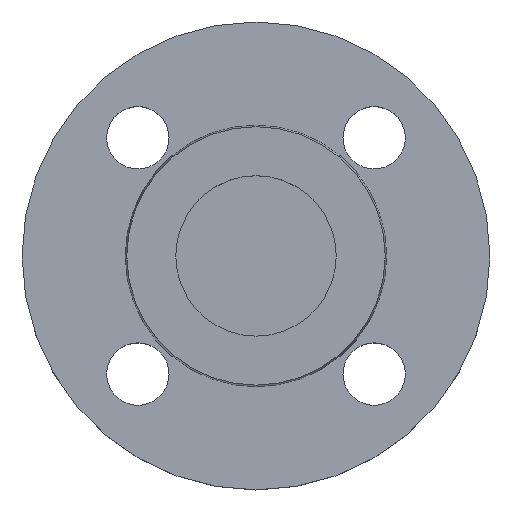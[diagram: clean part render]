
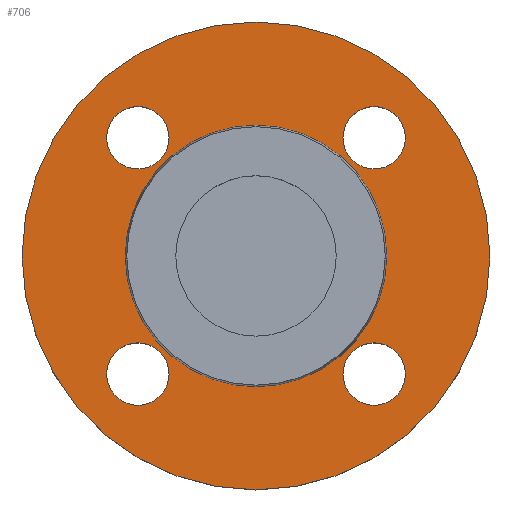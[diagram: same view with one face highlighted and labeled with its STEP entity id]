
A CAD part, top view. The second image highlights one B-rep face of the part: STEP entity #706.
In plain terms, the highlighted planar face has unit normal (0, 0, 1).
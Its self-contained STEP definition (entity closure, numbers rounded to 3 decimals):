
#14 = VERTEX_POINT ( 'NONE', #700 ) ;
#34 = EDGE_LOOP ( 'NONE', ( #111, #112 ) ) ;
#54 = CIRCLE ( 'NONE', #59, 7. ) ;
#59 = AXIS2_PLACEMENT_3D ( 'NONE', #539, #526, #557 ) ;
#63 = VERTEX_POINT ( 'NONE', #527 ) ;
#69 = VERTEX_POINT ( 'NONE', #602 ) ;
#74 = CIRCLE ( 'NONE', #80, 29.353 ) ;
#80 = AXIS2_PLACEMENT_3D ( 'NONE', #568, #569, #515 ) ;
#90 = CIRCLE ( 'NONE', #138, 52.5 ) ;
#99 = EDGE_CURVE ( 'NONE', #14, #420, #518, .T. ) ;
#103 = ORIENTED_EDGE ( 'NONE', *, *, #99, .T. ) ;
#105 = ORIENTED_EDGE ( 'NONE', *, *, #530, .T. ) ;
#106 = ORIENTED_EDGE ( 'NONE', *, *, #541, .T. ) ;
#107 = ORIENTED_EDGE ( 'NONE', *, *, #431, .T. ) ;
#108 = ORIENTED_EDGE ( 'NONE', *, *, #281, .T. ) ;
#109 = ORIENTED_EDGE ( 'NONE', *, *, #329, .T. ) ;
#111 = ORIENTED_EDGE ( 'NONE', *, *, #413, .T. ) ;
#112 = ORIENTED_EDGE ( 'NONE', *, *, #485, .T. ) ;
#113 = ORIENTED_EDGE ( 'NONE', *, *, #576, .T. ) ;
#114 = ORIENTED_EDGE ( 'NONE', *, *, #441, .T. ) ;
#115 = ORIENTED_EDGE ( 'NONE', *, *, #578, .F. ) ;
#116 = ORIENTED_EDGE ( 'NONE', *, *, #592, .F. ) ;
#138 = AXIS2_PLACEMENT_3D ( 'NONE', #291, #556, #516 ) ;
#157 = AXIS2_PLACEMENT_3D ( 'NONE', #510, #509, #506 ) ;
#163 = CIRCLE ( 'NONE', #157, 52.5 ) ;
#166 = VERTEX_POINT ( 'NONE', #609 ) ;
#176 = VERTEX_POINT ( 'NONE', #624 ) ;
#179 = AXIS2_PLACEMENT_3D ( 'NONE', #254, #256, #259 ) ;
#181 = CIRCLE ( 'NONE', #383, 7. ) ;
#182 = CIRCLE ( 'NONE', #492, 7. ) ;
#204 = CARTESIAN_POINT ( 'NONE',  ( -52.5, 0., -2. ) ) ;
#207 = CARTESIAN_POINT ( 'NONE',  ( -19.517, -26.517, -2. ) ) ;
#216 = AXIS2_PLACEMENT_3D ( 'NONE', #709, #710, #711 ) ;
#220 = CARTESIAN_POINT ( 'NONE',  ( 26.517, 26.517, -2. ) ) ;
#221 = DIRECTION ( 'NONE',  ( 0., 0., -1. ) ) ;
#222 = DIRECTION ( 'NONE',  ( 1., 0., 0. ) ) ;
#225 = CARTESIAN_POINT ( 'NONE',  ( 52.5, 0., -2. ) ) ;
#226 = CARTESIAN_POINT ( 'NONE',  ( 19.517, -26.517, -2. ) ) ;
#238 = CARTESIAN_POINT ( 'NONE',  ( -26.517, -26.517, -2. ) ) ;
#240 = DIRECTION ( 'NONE',  ( 0., 0., -1. ) ) ;
#243 = DIRECTION ( 'NONE',  ( 1., 0., 0. ) ) ;
#254 = CARTESIAN_POINT ( 'NONE',  ( 0., 0., -2. ) ) ;
#256 = DIRECTION ( 'NONE',  ( 0., 0., -1. ) ) ;
#259 = DIRECTION ( 'NONE',  ( -1., 0., 0. ) ) ;
#270 = AXIS2_PLACEMENT_3D ( 'NONE', #680, #682, #684 ) ;
#281 = EDGE_CURVE ( 'NONE', #699, #69, #637, .T. ) ;
#291 = CARTESIAN_POINT ( 'NONE',  ( 0., 0., -2. ) ) ;
#297 = AXIS2_PLACEMENT_3D ( 'NONE', #543, #546, #545 ) ;
#324 = CIRCLE ( 'NONE', #179, 29.353 ) ;
#325 = AXIS2_PLACEMENT_3D ( 'NONE', #583, #588, #589 ) ;
#329 = EDGE_CURVE ( 'NONE', #69, #699, #712, .T. ) ;
#332 = CIRCLE ( 'NONE', #625, 7. ) ;
#377 = CARTESIAN_POINT ( 'NONE',  ( 26.517, 26.517, -2. ) ) ;
#378 = DIRECTION ( 'NONE',  ( 0., 0., -1. ) ) ;
#381 = EDGE_LOOP ( 'NONE', ( #106, #107 ) ) ;
#383 = AXIS2_PLACEMENT_3D ( 'NONE', #220, #221, #222 ) ;
#384 = AXIS2_PLACEMENT_3D ( 'NONE', #468, #467, #464 ) ;
#386 = DIRECTION ( 'NONE',  ( 1., 0., 0. ) ) ;
#397 = EDGE_LOOP ( 'NONE', ( #103, #105 ) ) ;
#403 = VERTEX_POINT ( 'NONE', #204 ) ;
#404 = VERTEX_POINT ( 'NONE', #207 ) ;
#413 = EDGE_CURVE ( 'NONE', #582, #166, #181, .T. ) ;
#417 = EDGE_LOOP ( 'NONE', ( #108, #109 ) ) ;
#419 = VERTEX_POINT ( 'NONE', #225 ) ;
#420 = VERTEX_POINT ( 'NONE', #226 ) ;
#431 = EDGE_CURVE ( 'NONE', #63, #404, #182, .T. ) ;
#441 = EDGE_CURVE ( 'NONE', #176, #565, #324, .T. ) ;
#464 = DIRECTION ( 'NONE',  ( 1., 0., 0. ) ) ;
#467 = DIRECTION ( 'NONE',  ( 0., 0., 1. ) ) ;
#468 = CARTESIAN_POINT ( 'NONE',  ( 29.353, 0., -2. ) ) ;
#469 = PLANE ( 'NONE',  #384 ) ;
#472 = FACE_OUTER_BOUND ( 'NONE', #694, .T. ) ;
#473 = FACE_BOUND ( 'NONE', #683, .T. ) ;
#475 = FACE_BOUND ( 'NONE', #34, .T. ) ;
#476 = FACE_BOUND ( 'NONE', #417, .T. ) ;
#477 = FACE_BOUND ( 'NONE', #381, .T. ) ;
#478 = FACE_BOUND ( 'NONE', #397, .T. ) ;
#480 = CARTESIAN_POINT ( 'NONE',  ( -19.517, 26.517, -2. ) ) ;
#485 = EDGE_CURVE ( 'NONE', #166, #582, #332, .T. ) ;
#492 = AXIS2_PLACEMENT_3D ( 'NONE', #238, #240, #243 ) ;
#506 = DIRECTION ( 'NONE',  ( -1., 0., 0. ) ) ;
#509 = DIRECTION ( 'NONE',  ( 0., 0., -1. ) ) ;
#510 = CARTESIAN_POINT ( 'NONE',  ( 0., 0., -2. ) ) ;
#515 = DIRECTION ( 'NONE',  ( -1., 0., 0. ) ) ;
#516 = DIRECTION ( 'NONE',  ( -1., 0., 0. ) ) ;
#518 = CIRCLE ( 'NONE', #325, 7. ) ;
#526 = DIRECTION ( 'NONE',  ( 0., 0., -1. ) ) ;
#527 = CARTESIAN_POINT ( 'NONE',  ( -33.517, -26.517, -2. ) ) ;
#528 = CARTESIAN_POINT ( 'NONE',  ( -29.353, 0., -2. ) ) ;
#530 = EDGE_CURVE ( 'NONE', #420, #14, #660, .T. ) ;
#539 = CARTESIAN_POINT ( 'NONE',  ( -26.517, -26.517, -2. ) ) ;
#541 = EDGE_CURVE ( 'NONE', #404, #63, #54, .T. ) ;
#543 = CARTESIAN_POINT ( 'NONE',  ( 26.517, -26.517, -2. ) ) ;
#545 = DIRECTION ( 'NONE',  ( 1., 0., 0. ) ) ;
#546 = DIRECTION ( 'NONE',  ( 0., 0., -1. ) ) ;
#556 = DIRECTION ( 'NONE',  ( 0., 0., -1. ) ) ;
#557 = DIRECTION ( 'NONE',  ( 1., 0., 0. ) ) ;
#565 = VERTEX_POINT ( 'NONE', #528 ) ;
#567 = CARTESIAN_POINT ( 'NONE',  ( 33.517, 26.517, -2. ) ) ;
#568 = CARTESIAN_POINT ( 'NONE',  ( 0., 0., -2. ) ) ;
#569 = DIRECTION ( 'NONE',  ( 0., 0., -1. ) ) ;
#576 = EDGE_CURVE ( 'NONE', #565, #176, #74, .T. ) ;
#578 = EDGE_CURVE ( 'NONE', #419, #403, #90, .T. ) ;
#582 = VERTEX_POINT ( 'NONE', #567 ) ;
#583 = CARTESIAN_POINT ( 'NONE',  ( 26.517, -26.517, -2. ) ) ;
#588 = DIRECTION ( 'NONE',  ( 0., 0., -1. ) ) ;
#589 = DIRECTION ( 'NONE',  ( 1., 0., 0. ) ) ;
#592 = EDGE_CURVE ( 'NONE', #403, #419, #163, .T. ) ;
#602 = CARTESIAN_POINT ( 'NONE',  ( -33.517, 26.517, -2. ) ) ;
#609 = CARTESIAN_POINT ( 'NONE',  ( 19.517, 26.517, -2. ) ) ;
#624 = CARTESIAN_POINT ( 'NONE',  ( 29.353, 0., -2. ) ) ;
#625 = AXIS2_PLACEMENT_3D ( 'NONE', #377, #378, #386 ) ;
#637 = CIRCLE ( 'NONE', #270, 7. ) ;
#660 = CIRCLE ( 'NONE', #297, 7. ) ;
#680 = CARTESIAN_POINT ( 'NONE',  ( -26.517, 26.517, -2. ) ) ;
#682 = DIRECTION ( 'NONE',  ( 0., 0., -1. ) ) ;
#683 = EDGE_LOOP ( 'NONE', ( #113, #114 ) ) ;
#684 = DIRECTION ( 'NONE',  ( 1., 0., 0. ) ) ;
#694 = EDGE_LOOP ( 'NONE', ( #115, #116 ) ) ;
#699 = VERTEX_POINT ( 'NONE', #480 ) ;
#700 = CARTESIAN_POINT ( 'NONE',  ( 33.517, -26.517, -2. ) ) ;
#706 = ADVANCED_FACE ( 'NONE', ( #478, #477, #476, #475, #473, #472 ), #469, .T. ) ;
#709 = CARTESIAN_POINT ( 'NONE',  ( -26.517, 26.517, -2. ) ) ;
#710 = DIRECTION ( 'NONE',  ( 0., 0., -1. ) ) ;
#711 = DIRECTION ( 'NONE',  ( 1., 0., 0. ) ) ;
#712 = CIRCLE ( 'NONE', #216, 7. ) ;
